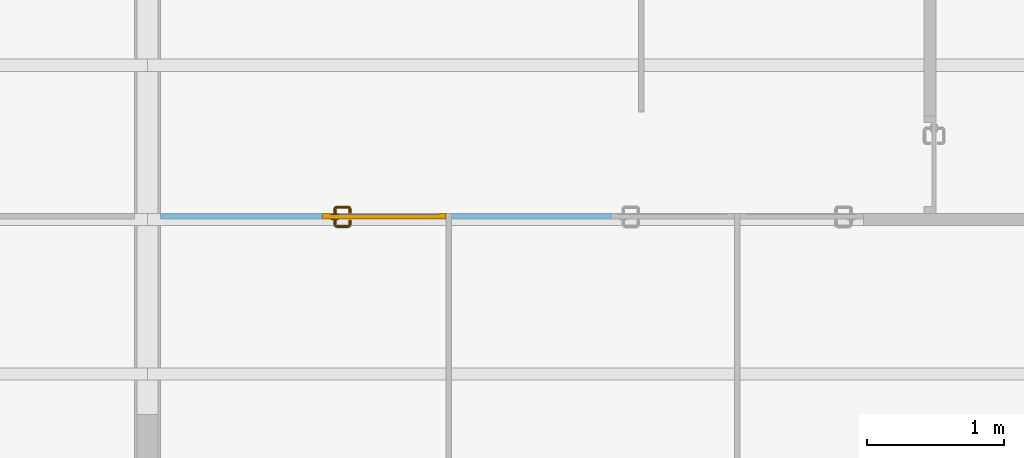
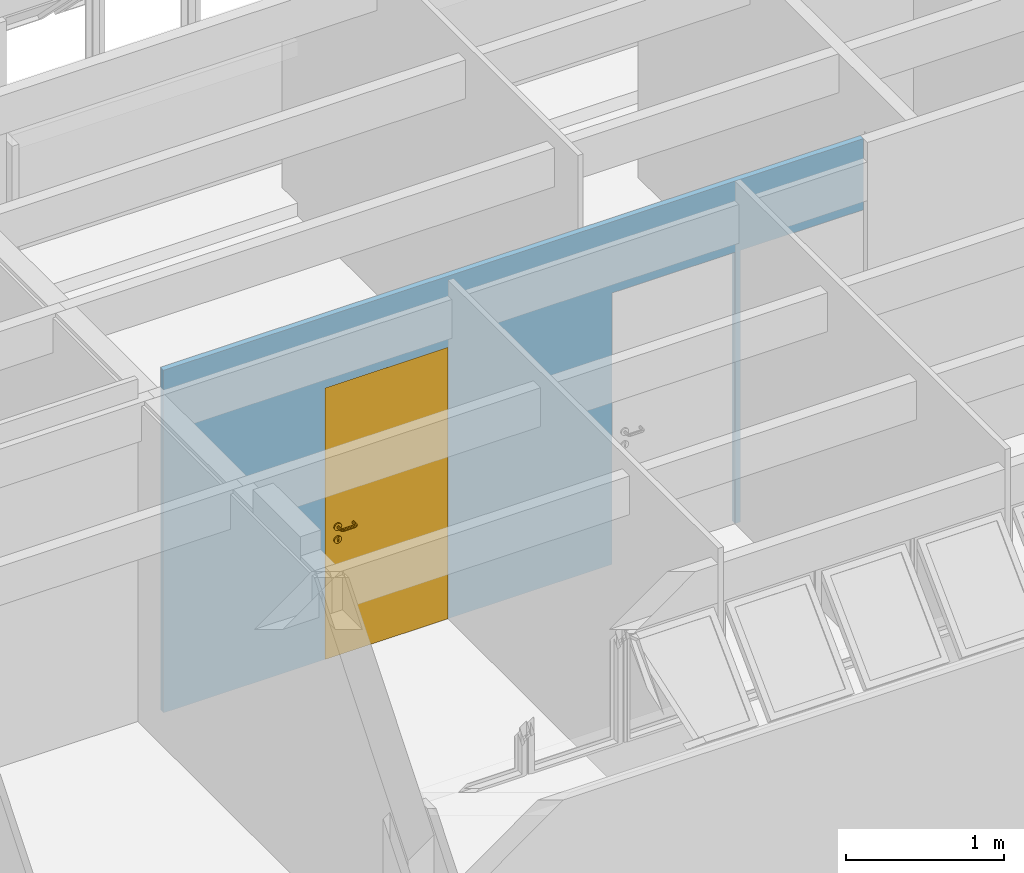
# One storey, part 6 of 22: 1 door, 3 openings, plus 1 element that does not belong to this part.
"""IFC2X3 building model written with IfcOpenShell, lengths in millimetres."""

from ifc_helpers import new_model, si_unit, direction, frame, frame_2d, origin_with_axes, place, context, subcontext, project, spatial, polyline, rectangle, outline, extrude, open_shell, faceted_brep, surface_model, source, transform, mapped, material, layer, layer_set, layer_usage, type_object, type_shapes, element, fill, save


model = new_model("IFC2X3")

# Units and contexts
model_context = context("Model", 3, precision=1e-05, world=origin_with_axes(), true_north=direction((0.0, 1.0)))
body_context = subcontext(model_context, "Body", "Model", "MODEL_VIEW")
ifc_project = project(units=[si_unit("LENGTHUNIT", "METRE", prefix="MILLI"), si_unit("AREAUNIT", "SQUARE_METRE"), si_unit("VOLUMEUNIT", "CUBIC_METRE"), si_unit("PLANEANGLEUNIT", "RADIAN"), si_unit("TIMEUNIT", "SECOND"), si_unit("MASSUNIT", "GRAM")], contexts=[model_context])

# Site, building, storey
site_placement = place(None, origin_with_axes())
site = spatial("IfcSite", under=ifc_project, at=site_placement, Name="Site", CompositionType="ELEMENT")
building_placement = place(site_placement, origin_with_axes())
building = spatial("IfcBuilding", under=site, at=building_placement, Name="Construção", CompositionType="COMPLEX")
storey_placement = place(building_placement, frame((0.0, 0.0, 2650.0), z_axis=(0.0, 0.0, 1.0), x_axis=(1.0, 0.0, 0.0)))
storey = spatial("IfcBuildingStorey", under=building, at=storey_placement, Name="Segundo Pavimento", CompositionType="COMPLEX", Elevation=2650.0)

# Wall, openings, door
ifc_material = material(Name="GENÉRICO - VEDAÇÃO EXTERNA")
ifc_layer = layer(ifc_material, 40.0)
ifc_layer_set = layer_set([ifc_layer], Name="GENÉRICO - VEDAÇÃO EXTERNA 40")
ifc_layer_usage = layer_usage(ifc_layer_set, "AXIS2", "POSITIVE", 0.0)
wall_type = type_object("IfcWallType", Name="GENÉRICO - VEDAÇÃO EXTERNA 40", PredefinedType="STANDARD", material=ifc_layer_set)
wall_placement = place(storey_placement, frame((12600.0, 3765.2195667, 0.0), z_axis=(0.0, 0.0, 1.0), x_axis=(-0.9999999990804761, -4.288412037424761e-05, 0.0)))
wall = element("IfcWallStandardCase", 1, at=wall_placement, inside=storey, type_object=wall_type, material=ifc_layer_usage, Name="APTO6-PAREDE-006", context=body_context, shape_type="SweptSolid", body=[
    extrude(outline(polyline([(-2559.999787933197, 20.0), (2560.001074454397, 19.99999999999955), (2559.999359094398, -20.0), (-2560.000645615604, -20.0), (-2559.999787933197, 20.0)])), frame((2560.000645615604, 20.0, 0.0), z_axis=(0.0, 0.0, 1.0), x_axis=(1.0, 0.0, 0.0)), (0.0, 0.0, 1.0), 2650.0),
])
opening_1_placement = place(wall_placement, frame((1840.000004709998, 40.0, 0.0), z_axis=(0.0, 0.0, 1.0), x_axis=(-1.0, 0.0, 0.0)))
element("IfcOpeningElement", 2, at=opening_1_placement, cuts=wall, ObjectType="Opening", context=body_context, shape_type="SweptSolid", body=[
    extrude(outline(polyline([(450.0, 1050.0), (450.0, -1050.0), (-450.0, -1050.0), (-450.0, 1050.0), (450.0, 1050.0)])), frame((450.0, 1.364242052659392e-12, 1050.000000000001), z_axis=(0.0, 1.0, 0.0), x_axis=(1.0, 0.0, 0.0)), (0.0, 0.0, 1.0), 120.0),
])
opening_2_placement = place(wall_placement, frame((900.0000047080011, 40.0, 0.0), z_axis=(0.0, 0.0, 1.0), x_axis=(-1.0, 0.0, 0.0)))
element("IfcOpeningElement", 3, at=opening_2_placement, cuts=wall, ObjectType="Opening", context=body_context, shape_type="SweptSolid", body=[
    extrude(outline(polyline([(-450.0, -1050.0), (-450.0, 1050.0), (450.0, 1050.0), (450.0, -1050.0), (-450.0, -1050.0)])), frame((450.0, 1.364242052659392e-12, 1050.000000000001), z_axis=(0.0, 1.0, 0.0), x_axis=(1.0, 0.0, 0.0)), (0.0, 0.0, 1.0), 120.0),
])
opening_3_placement = place(wall_placement, frame((3940.00000471, 40.0, 0.0), z_axis=(0.0, 0.0, 1.0), x_axis=(-1.0, 0.0, 0.0)))
opening_3 = element("IfcOpeningElement", 4, at=opening_3_placement, cuts=wall, ObjectType="Opening", context=body_context, shape_type="SweptSolid", body=[
    extrude(outline(polyline([(450.0, 1050.0), (450.0, -1050.0), (-450.0, -1050.0), (-450.0, 1050.0), (450.0, 1050.0)])), frame((450.0, 1.364242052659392e-12, 1050.000000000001), z_axis=(0.0, 1.0, 0.0), x_axis=(1.0, 0.0, 0.0)), (0.0, 0.0, 1.0), 120.0),
])
door_style = type_object("IfcDoorStyle", Name="Porta 25", ConstructionType="NOTDEFINED", OperationType="SINGLE_SWING_LEFT", ParameterTakesPrecedence=False, Sizeable=False)
shared_shape_1 = source(origin_with_axes(), body_context, "Body", "SolidModel", [
    extrude(outline(polyline([(10.0, 6.666666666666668), (10.0, -23.33333333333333), (-30.0, -23.33333333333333), (-30.0, 16.66666666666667), (20.0, 16.66666666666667), (20.0, 6.666666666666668), (10.0, 6.666666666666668)])), frame((29.9999999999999, 0.0, -23.33333333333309), z_axis=(0.0, 1.0, 0.0), x_axis=(1.0, 0.0, 0.0)), (0.0, 0.0, 1.0), 2050.0),
])
shared_shape_2 = source(origin_with_axes(), body_context, "Body", "SolidModel", [
    extrude(outline(polyline([(-10.0, 6.666666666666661), (-20.0, 6.666666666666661), (-20.0, 16.66666666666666), (30.0, 16.66666666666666), (30.0, -23.33333333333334), (-10.0, -23.33333333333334), (-10.0, 6.666666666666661)])), frame((869.9999999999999, 0.0, -23.3333333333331), z_axis=(0.0, 1.0, 0.0), x_axis=(1.0, 0.0, 0.0)), (0.0, 0.0, 1.0), 2050.0),
])
shared_shape_3 = source(origin_with_axes(), body_context, "Body", "SolidModel", [
    faceted_brep([(899.9999999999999, 2050.0, -39.99999999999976), (0.0, 2050.0, -39.99999999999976), (0.0, 2100.0, -39.99999999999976), (899.9999999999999, 2100.0, -39.99999999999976), (859.9999999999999, 2050.0, -29.99999999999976), (859.9999999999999, 2060.0, -29.99999999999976), (39.99999999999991, 2060.0, -29.99999999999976), (39.99999999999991, 2050.0, -29.99999999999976), (39.99999999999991, 2050.0, 0.0), (39.99999999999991, 2060.0, 0.0), (0.0, 2050.0, 0.0), (0.0, 2100.0, 0.0), (899.9999999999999, 2100.0, 0.0), (899.9999999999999, 2050.0, 0.0), (859.9999999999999, 2050.0, 0.0), (859.9999999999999, 2060.0, 0.0)], [[[0, 1, 2, 3]], [[4, 5, 6, 7]], [[8, 7, 6, 9]], [[10, 11, 2, 1]], [[11, 12, 3, 2]], [[12, 13, 0, 3]], [[4, 7, 8, 10, 1, 0, 13, 14]], [[15, 5, 4, 14]], [[9, 6, 5, 15]], [[9, 15, 14, 13, 12, 11, 10, 8]]]),
])
shared_shape_4 = source(origin_with_axes(), body_context, "Body", "SolidModel", [
    extrude(outline(polyline([(0.0, 27.00000000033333), (13.49999999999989, 23.38268590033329), (23.38268590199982, 13.50000000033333), (26.99999999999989, 3.333298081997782e-10), (23.38268590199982, -13.49999999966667), (13.49999999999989, -23.38268590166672), (0.0, -26.99999999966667), (-13.50000000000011, -23.38268590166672), (-23.38268590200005, -13.49999999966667), (-27.0, 3.333298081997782e-10), (-23.38268590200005, 13.50000000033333), (-13.50000000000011, 23.38268590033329), (0.0, 27.00000000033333)])), frame((90.0, 999.9999999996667, -40.0), z_axis=(0.0, 0.0, 1.0), x_axis=(1.0, 0.0, 0.0)), (0.0, 0.0, 1.0), 10.0),
])
shared_shape_5 = source(origin_with_axes(), body_context, "Body", "SolidModel", [
    faceted_brep([(67.48333950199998, 913.0, -39.0), (67.48333950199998, 913.0, -30.0), (64.0, 900.0, -30.0), (64.0, 900.0, -39.0), (67.48333950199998, 887.0, -39.0), (67.48333950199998, 887.0, -30.0), (77.0, 877.483339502, -30.0), (77.0, 877.483339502, -39.0), (66.61731409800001, 886.5, -30.0), (66.61731409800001, 886.5, -40.0), (76.5, 876.617314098, -40.0), (76.5, 876.617314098, -30.0), (63.0, 900.0, -30.0), (63.0, 900.0, -40.0), (76.5, 923.382685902, -30.0), (76.5, 923.382685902, -40.0), (66.61731409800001, 913.5, -40.0), (66.61731409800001, 913.5, -30.0), (90.0, 874.0, -30.0), (90.0, 874.0, -39.0), (90.0, 926.0, -30.0), (103.0, 922.516660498, -30.0), (112.516660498, 913.0, -30.0), (116.0, 900.0, -30.0), (112.516660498, 887.0, -30.0), (103.0, 877.483339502, -30.0), (77.0, 922.516660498, -30.0), (113.382685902, 913.5, -30.0), (103.5, 923.382685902, -30.0), (90.0, 927.0, -30.0), (90.0, 873.0, -30.0), (103.5, 876.617314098, -30.0), (113.382685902, 886.5, -30.0), (117.0, 900.0, -30.0), (90.0, 873.0, -40.0), (77.0, 922.516660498, -39.0), (103.5, 876.617314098, -40.0), (113.382685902, 886.5, -40.0), (117.0, 900.0, -40.0), (112.516660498, 887.0, -39.0), (116.0, 900.0, -39.0), (103.0, 877.483339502, -39.0), (82.53216922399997, 909.692280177, -40.0), (82.53216922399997, 909.692280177, -39.0), (85.0, 904.4, -39.0), (85.0, 904.4, -40.0), (90.0, 927.0, -40.0), (112.516660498, 913.0, -39.0), (90.0, 926.0, -39.0), (103.0, 922.516660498, -39.0), (85.0, 887.5, -39.0), (85.0, 887.5, -40.0), (86.46446609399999, 883.964466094, -40.0), (86.46446609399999, 883.964466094, -39.0), (90.0, 882.5, -40.0), (90.0, 882.5, -39.0), (93.53553390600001, 883.964466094, -40.0), (93.53553390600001, 883.964466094, -39.0), (95.0, 887.5, -40.0), (95.0, 887.5, -39.0), (84.62481768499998, 915.143815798, -40.0), (84.62481768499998, 915.143815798, -39.0), (83.279754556, 911.639806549, -39.0), (83.279754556, 911.639806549, -40.0), (90.0, 917.425445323, -40.0), (90.0, 917.425445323, -39.0), (103.5, 923.382685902, -40.0), (113.382685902, 913.5, -40.0), (95.37518231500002, 915.143815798, -40.0), (95.37518231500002, 915.143815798, -39.0), (96.720245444, 911.639806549, -39.0), (97.46783077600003, 909.692280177, -39.0), (95.0, 904.4, -39.0), (95.0, 904.4, -40.0), (97.46783077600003, 909.692280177, -40.0), (96.720245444, 911.639806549, -40.0)], [[[0, 1, 2, 3]], [[4, 5, 6, 7]], [[3, 2, 5, 4]], [[8, 9, 10, 11]], [[12, 13, 9, 8]], [[14, 15, 16, 17]], [[7, 6, 18, 19]], [[20, 21, 22, 23, 24, 25, 18, 6, 5, 2, 1, 26], [27, 28, 29, 14, 17, 12, 8, 11, 30, 31, 32, 33]], [[17, 16, 13, 12]], [[11, 10, 34, 30]], [[35, 26, 1, 0]], [[30, 34, 36, 31]], [[31, 36, 37, 32]], [[32, 37, 38, 33]], [[39, 24, 23, 40]], [[41, 25, 24, 39]], [[42, 43, 44, 45]], [[29, 46, 15, 14]], [[40, 23, 22, 47]], [[48, 20, 26, 35]], [[47, 22, 21, 49]], [[19, 18, 25, 41]], [[44, 50, 51, 45]], [[52, 51, 50, 53]], [[54, 52, 53, 55]], [[49, 21, 20, 48]], [[56, 54, 55, 57]], [[58, 56, 57, 59]], [[60, 61, 62, 43, 42, 63]], [[64, 65, 61, 60]], [[28, 66, 46, 29]], [[33, 38, 67, 27]], [[27, 67, 66, 28]], [[68, 69, 65, 64]], [[47, 49, 48, 35, 0, 3, 4, 7, 19, 41, 39, 40], [69, 70, 71, 72, 59, 57, 55, 53, 50, 44, 43, 62, 61, 65]], [[73, 72, 71, 74]], [[73, 58, 59, 72]], [[74, 71, 70, 69, 68, 75]], [[66, 67, 38, 37, 36, 34, 10, 9, 13, 16, 15, 46], [74, 75, 68, 64, 60, 63, 42, 45, 51, 52, 54, 56, 58, 73]]], outer=[[True], [True], [True], [True], [True], [True], [True], [False, True], [True], [True], [True], [True], [True], [True], [True], [True], [True], [True], [True], [True], [True], [True], [True], [True], [True], [True], [True], [True], [True], [True], [True], [True], [True], [True], [True, False], [True], [True], [True], [True, False]]),
])
shared_shape_6 = source(origin_with_axes(), body_context, "Body", "SurfaceModel", [
    surface_model("IfcShellBasedSurfaceModel", [(190.0, 1000.0, -69.0150859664), (190.0, 1000.0, -40.0), (192.928932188, 1007.07106781, -40.0), (192.928932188, 1007.07106781, -69.303560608), (189.438398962, 1000.0, -71.83844504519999), (192.197392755, 1007.07106781, -72.9812576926), (192.928932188, 992.928932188, -69.303560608), (192.928932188, 992.928932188, -40.0), (192.197392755, 992.928932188, -72.9812576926), (200.0, 990.0, -70.0), (200.0, 990.0, -40.0), (200.0, 1010.0, -40.0), (200.0, 1010.0, -70.0), (207.071067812, 992.928932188, -70.696439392), (207.071067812, 992.928932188, -40.0), (210.0, 1000.0, -40.0), (207.071067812, 1007.07106781, -40.0), (205.518993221, 992.928932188, -78.49924527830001), (198.858192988, 990.0, -75.74025148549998), (210.0, 1000.0, -70.9849140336), (208.277987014, 1000.0, -79.6420579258), (207.071067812, 1007.07106781, -70.696439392), (205.518993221, 1007.07106781, -78.49924527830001), (200.704557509, 1007.07106781, -85.70455750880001), (202.816199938, 1000.0, -87.8161999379), (198.858192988, 1010.0, -75.74025148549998), (195.606601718, 1010.0, -80.6066017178), (190.740251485, 1010.0, -83.8581929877), (193.499245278, 1007.07106781, -90.51899322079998), (190.508645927, 1007.07106781, -75.5086459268), (187.981257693, 1007.07106781, -77.19739275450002), (188.397003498, 1000.0, -73.39700349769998), (186.838445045, 1000.0, -74.43839896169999), (190.508645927, 992.928932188, -75.5086459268), (200.704557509, 992.928932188, -85.70455750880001), (195.606601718, 990.0, -80.6066017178), (187.981257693, 992.928932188, -77.19739275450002), (184.303560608, 992.928932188, -77.92893218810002), (184.015085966, 1000.0, -75.0), (190.740251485, 990.0, -83.8581929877), (184.303560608, 1007.07106781, -77.92893218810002), (185.0, 1010.0, -85.0), (105.984914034, 1000.0, -75.0), (105.696439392, 1007.07106781, -77.92893218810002), (105.0, 1010.0, -85.0), (185.696439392, 1007.07106781, -92.07106781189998), (104.303560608, 1007.07106781, -92.07106781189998), (105.696439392, 992.928932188, -77.92893218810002), (185.0, 990.0, -85.0), (102.018742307, 1007.07106781, -77.19739275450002), (99.25974851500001, 1010.0, -83.8581929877), (193.499245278, 992.928932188, -90.51899322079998), (105.0, 990.0, -85.0), (102.018742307, 992.928932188, -77.19739275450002), (103.161554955, 1000.0, -74.43839896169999), (99.491354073, 992.928932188, -75.5086459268), (101.602996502, 1000.0, -73.39700349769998), (99.491354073, 1007.07106781, -75.5086459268), (194.642057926, 1000.0, -93.2779870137), (185.696439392, 992.928932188, -92.07106781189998), (185.984914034, 1000.0, -95.0), (104.015085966, 1000.0, -95.0), (104.303560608, 992.928932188, -92.07106781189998), (99.25974851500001, 990.0, -83.8581929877), (95.357942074, 1000.0, -93.2779870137), (96.50075472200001, 992.928932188, -90.51899322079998), (96.50075472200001, 1007.07106781, -90.51899322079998), (89.29544249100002, 1007.07106781, -85.70455750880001), (87.18380006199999, 1000.0, -87.8161999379), (94.39339828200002, 1010.0, -80.6066017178), (97.80260724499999, 1007.07106781, -72.9812576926), (91.14180701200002, 1010.0, -75.74025148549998), (84.48100677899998, 1007.07106781, -78.49924527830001), (94.39339828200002, 990.0, -80.6066017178), (91.14180701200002, 990.0, -75.74025148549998), (97.80260724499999, 992.928932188, -72.9812576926), (89.29544249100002, 992.928932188, -85.70455750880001), (100.561601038, 1000.0, -71.83844504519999), (97.07106781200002, 992.928932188, -69.303560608), (100.0, 1000.0, -69.0150859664), (97.07106781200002, 1007.07106781, -69.303560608), (97.07106781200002, 992.928932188, -40.0), (100.0, 1000.0, -40.0), (90.0, 1010.0, -70.0), (97.07106781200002, 1007.07106781, -40.0), (90.0, 1010.0, -40.0), (82.92893218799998, 1007.07106781, -70.696439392), (82.92893218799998, 1007.07106781, -40.0), (90.0, 990.0, -40.0), (90.0, 990.0, -70.0), (84.48100677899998, 992.928932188, -78.49924527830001), (81.72201298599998, 1000.0, -79.6420579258), (82.92893218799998, 992.928932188, -70.696439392), (80.0, 1000.0, -70.9849140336), (82.92893218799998, 992.928932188, -40.0), (80.0, 1000.0, -40.0)], [open_shell([[[0, 1, 2, 3]], [[4, 0, 3, 5]], [[6, 7, 1, 0]], [[8, 6, 0, 4]], [[9, 10, 7, 6]], [[3, 2, 11, 12]], [[13, 14, 10, 9]], [[15, 16, 11, 2, 1, 7, 10, 14]], [[17, 13, 9, 18]], [[19, 15, 14, 13]], [[20, 19, 13, 17]], [[21, 16, 15, 19]], [[22, 21, 19, 20]], [[12, 11, 16, 21]], [[23, 22, 20, 24]], [[25, 12, 21, 22]], [[26, 25, 22, 23]], [[5, 3, 12, 25]], [[27, 26, 23, 28]], [[29, 5, 25, 26]], [[30, 29, 26, 27]], [[31, 4, 5, 29]], [[32, 31, 29, 30]], [[33, 8, 4, 31]], [[18, 9, 6, 8]], [[34, 17, 18, 35]], [[36, 33, 31, 32]], [[35, 18, 8, 33]], [[37, 36, 32, 38]], [[39, 35, 33, 36]], [[38, 32, 30, 40]], [[40, 30, 27, 41]], [[42, 38, 40, 43]], [[44, 41, 45, 46]], [[47, 37, 38, 42]], [[48, 39, 36, 37]], [[43, 40, 41, 44]], [[49, 43, 44, 50]], [[51, 34, 35, 39]], [[24, 20, 17, 34]], [[52, 48, 37, 47]], [[53, 47, 42, 54]], [[54, 42, 43, 49]], [[55, 53, 54, 56]], [[56, 54, 49, 57]], [[28, 23, 24, 58]], [[41, 27, 28, 45]], [[59, 51, 39, 48]], [[58, 24, 34, 51]], [[45, 28, 58, 60]], [[60, 58, 51, 59]], [[46, 45, 60, 61]], [[61, 60, 59, 62]], [[63, 52, 47, 53]], [[62, 59, 48, 52]], [[64, 61, 62, 65]], [[65, 62, 52, 63]], [[66, 46, 61, 64]], [[67, 66, 64, 68]], [[50, 44, 46, 66]], [[57, 49, 50, 69]], [[69, 50, 66, 67]], [[70, 57, 69, 71]], [[71, 69, 67, 72]], [[73, 63, 53, 55]], [[74, 73, 55, 75]], [[76, 65, 63, 73]], [[75, 55, 56, 77]], [[77, 56, 57, 70]], [[78, 75, 77, 79]], [[79, 77, 70, 80]], [[81, 78, 79, 82]], [[80, 70, 71, 83]], [[82, 79, 80, 84]], [[84, 80, 83, 85]], [[85, 83, 86, 87]], [[88, 89, 78, 81]], [[89, 74, 75, 78]], [[90, 76, 73, 74]], [[68, 64, 65, 76]], [[72, 67, 68, 91]], [[83, 71, 72, 86]], [[92, 90, 74, 89]], [[91, 68, 76, 90]], [[86, 72, 91, 93]], [[94, 92, 89, 88]], [[93, 91, 90, 92]], [[87, 86, 93, 95]], [[95, 93, 92, 94]]])]),
])
shared_shape_7 = source(origin_with_axes(), body_context, "Body", "SolidModel", [
    extrude(outline(polyline([(0.0, 27.00000000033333), (13.49999999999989, 23.38268590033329), (23.38268590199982, 13.50000000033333), (26.99999999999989, 3.333298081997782e-10), (23.38268590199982, -13.49999999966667), (13.49999999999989, -23.38268590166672), (0.0, -26.99999999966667), (-13.50000000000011, -23.38268590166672), (-23.38268590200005, -13.49999999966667), (-27.0, 3.333298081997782e-10), (-23.38268590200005, 13.50000000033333), (-13.50000000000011, 23.38268590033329), (0.0, 27.00000000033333)])), frame((90.0, 999.9999999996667, 0.0), z_axis=(0.0, 0.0, 1.0), x_axis=(1.0, 0.0, 0.0)), (0.0, 0.0, 1.0), 10.0),
])
shared_shape_8 = source(origin_with_axes(), body_context, "Body", "SolidModel", [
    faceted_brep([(64.0, 900.0, 9.0), (67.48333950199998, 887.0, 9.0), (67.48333950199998, 887.0, 0.0), (64.0, 900.0, 0.0), (63.0, 900.0, 10.0), (63.0, 900.0, 0.0), (66.61731409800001, 886.5, 0.0), (66.61731409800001, 886.5, 10.0), (67.48333950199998, 913.0, 9.0), (67.48333950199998, 913.0, 0.0), (76.5, 876.617314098, 0.0), (76.5, 876.617314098, 10.0), (66.61731409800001, 913.5, 10.0), (66.61731409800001, 913.5, 0.0), (76.5, 923.382685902, 10.0), (76.5, 923.382685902, 0.0), (77.0, 877.483339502, 9.0), (77.0, 877.483339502, 0.0), (77.0, 922.516660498, 9.0), (77.0, 922.516660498, 0.0), (90.0, 873.0, 0.0), (90.0, 873.0, 10.0), (103.5, 876.617314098, 0.0), (103.5, 876.617314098, 10.0), (90.0, 927.0, 0.0), (103.5, 923.382685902, 0.0), (113.382685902, 913.5, 0.0), (117.0, 900.0, 0.0), (113.382685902, 886.5, 0.0), (112.516660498, 913.0, 0.0), (103.0, 922.516660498, 0.0), (90.0, 926.0, 0.0), (90.0, 874.0, 0.0), (103.0, 877.483339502, 0.0), (112.516660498, 887.0, 0.0), (116.0, 900.0, 0.0), (90.0, 882.5, 9.0), (86.46446609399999, 883.964466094, 9.0), (86.46446609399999, 883.964466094, 10.0), (90.0, 882.5, 10.0), (90.0, 927.0, 10.0), (85.0, 887.5, 9.0), (85.0, 887.5, 10.0), (113.382685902, 886.5, 10.0), (117.0, 900.0, 10.0), (113.382685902, 913.5, 10.0), (90.0, 874.0, 9.0), (103.0, 877.483339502, 9.0), (112.516660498, 887.0, 9.0), (103.5, 923.382685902, 10.0), (93.53553390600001, 883.964466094, 9.0), (93.53553390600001, 883.964466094, 10.0), (95.0, 887.5, 9.0), (95.0, 887.5, 10.0), (116.0, 900.0, 9.0), (112.516660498, 913.0, 9.0), (85.0, 904.4, 10.0), (85.0, 904.4, 9.0), (82.53216922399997, 909.692280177, 9.0), (82.53216922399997, 909.692280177, 10.0), (84.62481768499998, 915.143815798, 9.0), (84.62481768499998, 915.143815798, 10.0), (83.279754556, 911.639806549, 10.0), (83.279754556, 911.639806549, 9.0), (90.0, 917.425445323, 9.0), (90.0, 917.425445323, 10.0), (90.0, 926.0, 9.0), (103.0, 922.516660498, 9.0), (95.37518231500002, 915.143815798, 9.0), (95.37518231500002, 915.143815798, 10.0), (96.720245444, 911.639806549, 10.0), (97.46783077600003, 909.692280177, 10.0), (95.0, 904.4, 10.0), (95.0, 904.4, 9.0), (97.46783077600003, 909.692280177, 9.0), (96.720245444, 911.639806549, 9.0)], [[[0, 1, 2, 3]], [[4, 5, 6, 7]], [[8, 0, 3, 9]], [[7, 6, 10, 11]], [[12, 13, 5, 4]], [[14, 15, 13, 12]], [[1, 16, 17, 2]], [[18, 8, 9, 19]], [[11, 10, 20, 21]], [[21, 20, 22, 23]], [[24, 25, 26, 27, 28, 22, 20, 10, 6, 5, 13, 15], [29, 30, 31, 19, 9, 3, 2, 17, 32, 33, 34, 35]], [[36, 37, 38, 39]], [[40, 24, 15, 14]], [[37, 41, 42, 38]], [[43, 28, 27, 44]], [[44, 27, 26, 45]], [[23, 22, 28, 43]], [[16, 46, 32, 17]], [[46, 47, 33, 32]], [[47, 48, 34, 33]], [[49, 25, 24, 40]], [[50, 36, 39, 51]], [[52, 50, 51, 53]], [[45, 26, 25, 49]], [[48, 54, 35, 34]], [[54, 55, 29, 35]], [[56, 42, 41, 57]], [[58, 59, 56, 57]], [[60, 61, 62, 59, 58, 63]], [[64, 65, 61, 60]], [[66, 18, 19, 31]], [[67, 66, 31, 30]], [[55, 67, 30, 29]], [[68, 69, 65, 64]], [[45, 49, 40, 14, 12, 4, 7, 11, 21, 23, 43, 44], [69, 70, 71, 72, 53, 51, 39, 38, 42, 56, 59, 62, 61, 65]], [[73, 72, 71, 74]], [[73, 52, 53, 72]], [[74, 71, 70, 69, 68, 75]], [[66, 67, 55, 54, 48, 47, 46, 16, 1, 0, 8, 18], [74, 75, 68, 64, 60, 63, 58, 57, 41, 37, 36, 50, 52, 73]]]),
])
shared_shape_9 = source(origin_with_axes(), body_context, "Body", "SurfaceModel", [
    surface_model("IfcShellBasedSurfaceModel", [(192.928932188, 1007.07106781, 39.303560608), (200.0, 1010.0, 40.0), (200.0, 1010.0, 10.0), (192.928932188, 1007.07106781, 10.0), (190.0, 1000.0, 39.0150859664), (190.0, 1000.0, 10.0), (192.928932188, 992.928932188, 39.303560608), (192.928932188, 992.928932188, 10.0), (200.0, 990.0, 40.0), (200.0, 990.0, 10.0), (192.197392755, 992.928932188, 42.9812576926), (189.438398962, 1000.0, 41.8384450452), (210.0, 1000.0, 10.0), (207.071067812, 992.928932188, 10.0), (207.071067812, 1007.07106781, 10.0), (192.197392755, 1007.07106781, 42.9812576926), (188.397003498, 1000.0, 43.3970034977), (190.508645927, 1007.07106781, 45.5086459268), (195.606601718, 1010.0, 50.6066017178), (198.858192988, 1010.0, 45.7402514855), (207.071067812, 992.928932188, 40.696439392), (198.858192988, 990.0, 45.7402514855), (190.508645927, 992.928932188, 45.5086459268), (186.838445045, 1000.0, 44.4383989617), (187.981257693, 1007.07106781, 47.1973927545), (207.071067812, 1007.07106781, 40.696439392), (205.518993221, 1007.07106781, 48.4992452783), (210.0, 1000.0, 40.9849140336), (208.277987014, 1000.0, 49.6420579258), (205.518993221, 992.928932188, 48.4992452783), (105.696439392, 1007.07106781, 47.9289321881), (105.0, 1010.0, 55.0), (185.0, 1010.0, 55.0), (184.303560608, 1007.07106781, 47.9289321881), (200.704557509, 992.928932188, 55.7045575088), (195.606601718, 990.0, 50.6066017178), (190.740251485, 1010.0, 53.8581929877), (185.696439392, 1007.07106781, 62.0710678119), (193.499245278, 1007.07106781, 60.5189932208), (200.704557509, 1007.07106781, 55.7045575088), (202.816199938, 1000.0, 57.8161999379), (190.740251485, 990.0, 53.8581929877), (187.981257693, 992.928932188, 47.1973927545), (184.015085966, 1000.0, 45.0), (184.303560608, 992.928932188, 47.9289321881), (105.984914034, 1000.0, 45.0), (105.696439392, 992.928932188, 47.9289321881), (103.161554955, 1000.0, 44.4383989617), (102.018742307, 1007.07106781, 47.1973927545), (185.0, 990.0, 55.0), (194.642057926, 1000.0, 63.2779870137), (193.499245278, 992.928932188, 60.5189932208), (99.491354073, 1007.07106781, 45.5086459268), (94.39339828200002, 1010.0, 50.6066017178), (99.25974851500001, 1010.0, 53.8581929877), (185.984914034, 1000.0, 65.0), (185.696439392, 992.928932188, 62.0710678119), (104.015085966, 1000.0, 65.0), (104.303560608, 992.928932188, 62.0710678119), (104.303560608, 1007.07106781, 62.0710678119), (100.561601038, 1000.0, 41.8384450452), (97.80260724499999, 1007.07106781, 42.9812576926), (101.602996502, 1000.0, 43.3970034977), (105.0, 990.0, 55.0), (102.018742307, 992.928932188, 47.1973927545), (96.50075472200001, 1007.07106781, 60.5189932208), (89.29544249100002, 1007.07106781, 55.7045575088), (95.357942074, 1000.0, 63.2779870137), (91.14180701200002, 1010.0, 45.7402514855), (99.25974851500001, 990.0, 53.8581929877), (99.491354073, 992.928932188, 45.5086459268), (96.50075472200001, 992.928932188, 60.5189932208), (87.18380006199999, 1000.0, 57.8161999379), (89.29544249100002, 992.928932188, 55.7045575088), (94.39339828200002, 990.0, 50.6066017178), (100.0, 1000.0, 10.0), (97.07106781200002, 1007.07106781, 10.0), (97.07106781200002, 1007.07106781, 39.303560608), (100.0, 1000.0, 39.0150859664), (90.0, 1010.0, 10.0), (90.0, 1010.0, 40.0), (84.48100677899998, 1007.07106781, 48.4992452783), (82.92893218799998, 1007.07106781, 10.0), (82.92893218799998, 1007.07106781, 40.696439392), (81.72201298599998, 1000.0, 49.6420579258), (97.80260724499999, 992.928932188, 42.9812576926), (97.07106781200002, 992.928932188, 10.0), (97.07106781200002, 992.928932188, 39.303560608), (91.14180701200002, 990.0, 45.7402514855), (90.0, 990.0, 10.0), (90.0, 990.0, 40.0), (84.48100677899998, 992.928932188, 48.4992452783), (80.0, 1000.0, 40.9849140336), (82.92893218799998, 992.928932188, 40.696439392), (80.0, 1000.0, 10.0), (82.92893218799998, 992.928932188, 10.0)], [open_shell([[[0, 1, 2, 3]], [[4, 0, 3, 5]], [[6, 4, 5, 7]], [[8, 6, 7, 9]], [[10, 11, 4, 6]], [[12, 13, 9, 7, 5, 3, 2, 14]], [[11, 15, 0, 4]], [[16, 17, 15, 11]], [[17, 18, 19, 15]], [[20, 8, 9, 13]], [[21, 10, 6, 8]], [[22, 16, 11, 10]], [[23, 24, 17, 16]], [[15, 19, 1, 0]], [[1, 25, 14, 2]], [[19, 26, 25, 1]], [[25, 27, 12, 14]], [[27, 20, 13, 12]], [[28, 29, 20, 27]], [[30, 31, 32, 33]], [[29, 21, 8, 20]], [[34, 35, 21, 29]], [[33, 32, 36, 24]], [[24, 36, 18, 17]], [[32, 37, 38, 36]], [[18, 39, 26, 19]], [[26, 28, 27, 25]], [[36, 38, 39, 18]], [[39, 40, 28, 26]], [[35, 22, 10, 21]], [[41, 42, 22, 35]], [[42, 23, 16, 22]], [[43, 33, 24, 23]], [[44, 43, 23, 42]], [[45, 30, 33, 43]], [[46, 45, 43, 44]], [[47, 48, 30, 45]], [[49, 44, 42, 41]], [[38, 50, 40, 39]], [[40, 34, 29, 28]], [[51, 41, 35, 34]], [[52, 53, 54, 48]], [[37, 55, 50, 38]], [[50, 51, 34, 40]], [[56, 49, 41, 51]], [[55, 56, 51, 50]], [[57, 58, 56, 55]], [[48, 54, 31, 30]], [[31, 59, 37, 32]], [[60, 61, 52, 62]], [[63, 46, 44, 49]], [[64, 47, 45, 46]], [[62, 52, 48, 47]], [[58, 63, 49, 56]], [[54, 65, 59, 31]], [[59, 57, 55, 37]], [[53, 66, 65, 54]], [[65, 67, 57, 59]], [[61, 68, 53, 52]], [[69, 64, 46, 63]], [[70, 62, 47, 64]], [[67, 71, 58, 57]], [[72, 73, 71, 67]], [[71, 69, 63, 58]], [[73, 74, 69, 71]], [[66, 72, 67, 65]], [[74, 70, 64, 69]], [[75, 76, 77, 78]], [[76, 79, 80, 77]], [[77, 80, 68, 61]], [[68, 81, 66, 53]], [[79, 82, 83, 80]], [[80, 83, 81, 68]], [[81, 84, 72, 66]], [[85, 60, 62, 70]], [[78, 77, 61, 60]], [[86, 75, 78, 87]], [[88, 85, 70, 74]], [[87, 78, 60, 85]], [[89, 86, 87, 90]], [[91, 88, 74, 73]], [[90, 87, 85, 88]], [[83, 92, 84, 81]], [[84, 91, 73, 72]], [[93, 90, 88, 91]], [[82, 94, 92, 83]], [[92, 93, 91, 84]], [[95, 89, 90, 93]], [[94, 95, 93, 92]]])]),
])
shared_shape_10 = source(origin_with_axes(), body_context, "Body", "SolidModel", [
    extrude(rectangle(XDim=2060.0, YDim=820.0, at=frame_2d((0.0, 0.0), x_axis=(0.0, 1.0))), frame((449.9999999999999, 1030.0, -29.99999999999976), z_axis=(0.0, 0.0, 1.0), x_axis=(1.0, 0.0, 0.0)), (0.0, 0.0, 1.0), 30.0),
])
shared_shape_11 = source(origin_with_axes(), body_context, "Body", "MappedRepresentation", [
    mapped(shared_shape_1, transform((0.0, 0.0, 0.0))),
    mapped(shared_shape_2, transform((0.0, 0.0, 0.0))),
    mapped(shared_shape_3, transform((0.0, 0.0, 0.0))),
    mapped(shared_shape_4, transform((0.0, 0.0, 0.0))),
    mapped(shared_shape_5, transform((0.0, 0.0, 0.0))),
    mapped(shared_shape_6, transform((0.0, 0.0, 0.0))),
    mapped(shared_shape_7, transform((0.0, 0.0, 0.0))),
    mapped(shared_shape_8, transform((0.0, 0.0, 0.0))),
    mapped(shared_shape_9, transform((0.0, 0.0, 0.0))),
    mapped(shared_shape_10, transform((0.0, 0.0, 0.0))),
])
type_shapes(door_style, [shared_shape_11])
door_placement = place(opening_3_placement, origin_with_axes())
door = element("IfcDoor", 5, at=door_placement, inside=storey, type_object=door_style, Name="APTO6-PORTA-000", OverallHeight=2100.0, OverallWidth=900.0, context=body_context, shape_type="MappedRepresentation", body=[
    mapped(shared_shape_11, transform((0.0, 0.0, 0.0), x_axis=(1.0, 0.0, 0.0), y_axis=(0.0, 0.0, 1.0), z_axis=(0.0, -1.0, 0.0), scale=1.0)),
])
fill(opening_3, door)

save(model, "model.ifc")
